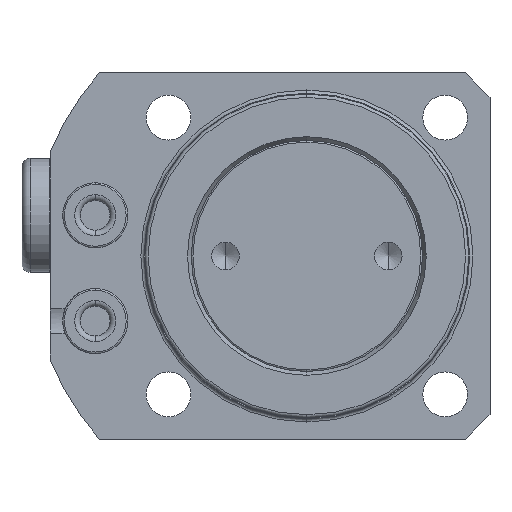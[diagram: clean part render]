
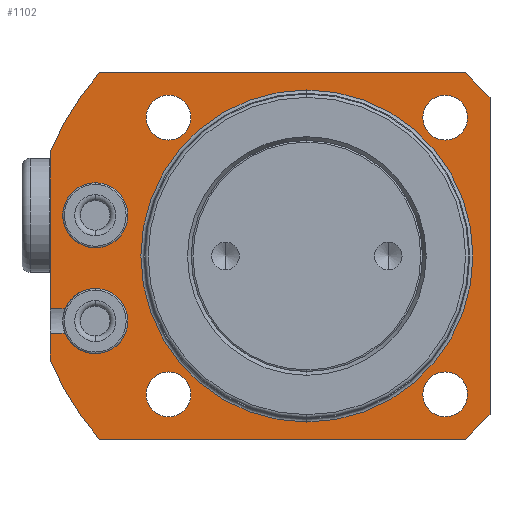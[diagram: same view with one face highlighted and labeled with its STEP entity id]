
A CAD part, front view. The second image highlights one B-rep face of the part: STEP entity #1102.
In plain terms, the highlighted planar face has unit normal (0, -1, 0).
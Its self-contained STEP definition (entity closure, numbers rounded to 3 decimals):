
#432=PLANE('',#4488);
#498=FACE_BOUND('',#1655,.T.);
#499=FACE_BOUND('',#1656,.T.);
#500=FACE_BOUND('',#1657,.T.);
#501=FACE_BOUND('',#1658,.T.);
#502=FACE_BOUND('',#1659,.T.);
#503=FACE_BOUND('',#1660,.T.);
#504=FACE_BOUND('',#1661,.T.);
#729=LINE('',#6879,#923);
#730=LINE('',#6882,#924);
#731=LINE('',#6884,#925);
#732=LINE('',#6888,#926);
#733=LINE('',#6890,#927);
#734=LINE('',#6892,#928);
#735=LINE('',#6894,#929);
#736=LINE('',#6896,#930);
#737=LINE('',#6900,#931);
#923=VECTOR('',#5290,1.);
#924=VECTOR('',#5293,1.);
#925=VECTOR('',#5294,1.);
#926=VECTOR('',#5297,1.);
#927=VECTOR('',#5298,1.);
#928=VECTOR('',#5299,1.);
#929=VECTOR('',#5300,1.);
#930=VECTOR('',#5301,1.);
#931=VECTOR('',#5304,1.);
#1102=ADVANCED_FACE('',(#498,#499,#500,#501,#502,#503,#504),#432,.T.);
#1655=EDGE_LOOP('',(#2117,#2118,#2119,#2120,#2121,#2122,#2123,#2124,#2125,
#2126,#2127,#2128,#2129,#2130));
#1656=EDGE_LOOP('',(#2131,#2132));
#1657=EDGE_LOOP('',(#2133,#2134));
#1658=EDGE_LOOP('',(#2135,#2136));
#1659=EDGE_LOOP('',(#2137,#2138));
#1660=EDGE_LOOP('',(#2139,#2140));
#1661=EDGE_LOOP('',(#2141,#2142));
#2117=ORIENTED_EDGE('',*,*,#3596,.F.);
#2118=ORIENTED_EDGE('',*,*,#3471,.F.);
#2119=ORIENTED_EDGE('',*,*,#3597,.F.);
#2120=ORIENTED_EDGE('',*,*,#3473,.F.);
#2121=ORIENTED_EDGE('',*,*,#3598,.F.);
#2122=ORIENTED_EDGE('',*,*,#3599,.T.);
#2123=ORIENTED_EDGE('',*,*,#3600,.T.);
#2124=ORIENTED_EDGE('',*,*,#3601,.T.);
#2125=ORIENTED_EDGE('',*,*,#3602,.T.);
#2126=ORIENTED_EDGE('',*,*,#3603,.T.);
#2127=ORIENTED_EDGE('',*,*,#3604,.T.);
#2128=ORIENTED_EDGE('',*,*,#3605,.T.);
#2129=ORIENTED_EDGE('',*,*,#3606,.T.);
#2130=ORIENTED_EDGE('',*,*,#3607,.T.);
#2131=ORIENTED_EDGE('',*,*,#3608,.F.);
#2132=ORIENTED_EDGE('',*,*,#3467,.F.);
#2133=ORIENTED_EDGE('',*,*,#3495,.F.);
#2134=ORIENTED_EDGE('',*,*,#3609,.F.);
#2135=ORIENTED_EDGE('',*,*,#3503,.F.);
#2136=ORIENTED_EDGE('',*,*,#3610,.F.);
#2137=ORIENTED_EDGE('',*,*,#3511,.F.);
#2138=ORIENTED_EDGE('',*,*,#3611,.F.);
#2139=ORIENTED_EDGE('',*,*,#3519,.F.);
#2140=ORIENTED_EDGE('',*,*,#3612,.F.);
#2141=ORIENTED_EDGE('',*,*,#3613,.F.);
#2142=ORIENTED_EDGE('',*,*,#3573,.F.);
#3099=VERTEX_POINT('',#6443);
#3100=VERTEX_POINT('',#6445);
#3103=VERTEX_POINT('',#6452);
#3104=VERTEX_POINT('',#6454);
#3105=VERTEX_POINT('',#6459);
#3106=VERTEX_POINT('',#6461);
#3125=VERTEX_POINT('',#6578);
#3126=VERTEX_POINT('',#6579);
#3133=VERTEX_POINT('',#6605);
#3134=VERTEX_POINT('',#6606);
#3141=VERTEX_POINT('',#6632);
#3142=VERTEX_POINT('',#6633);
#3149=VERTEX_POINT('',#6659);
#3150=VERTEX_POINT('',#6660);
#3191=VERTEX_POINT('',#6798);
#3192=VERTEX_POINT('',#6800);
#3209=VERTEX_POINT('',#6880);
#3210=VERTEX_POINT('',#6883);
#3211=VERTEX_POINT('',#6885);
#3212=VERTEX_POINT('',#6887);
#3213=VERTEX_POINT('',#6889);
#3214=VERTEX_POINT('',#6891);
#3215=VERTEX_POINT('',#6893);
#3216=VERTEX_POINT('',#6895);
#3217=VERTEX_POINT('',#6897);
#3218=VERTEX_POINT('',#6899);
#3467=EDGE_CURVE('',#3099,#3100,#4036,.T.);
#3471=EDGE_CURVE('',#3103,#3104,#4038,.T.);
#3473=EDGE_CURVE('',#3105,#3106,#4039,.T.);
#3495=EDGE_CURVE('',#3125,#3126,#4045,.T.);
#3503=EDGE_CURVE('',#3133,#3134,#4048,.T.);
#3511=EDGE_CURVE('',#3141,#3142,#4051,.T.);
#3519=EDGE_CURVE('',#3149,#3150,#4054,.T.);
#3573=EDGE_CURVE('',#3191,#3192,#4087,.T.);
#3596=EDGE_CURVE('',#3104,#3209,#729,.T.);
#3597=EDGE_CURVE('',#3106,#3103,#4097,.T.);
#3598=EDGE_CURVE('',#3210,#3105,#730,.T.);
#3599=EDGE_CURVE('',#3210,#3211,#731,.T.);
#3600=EDGE_CURVE('',#3211,#3212,#4098,.T.);
#3601=EDGE_CURVE('',#3212,#3213,#732,.T.);
#3602=EDGE_CURVE('',#3213,#3214,#733,.T.);
#3603=EDGE_CURVE('',#3214,#3215,#734,.T.);
#3604=EDGE_CURVE('',#3215,#3216,#735,.T.);
#3605=EDGE_CURVE('',#3216,#3217,#736,.T.);
#3606=EDGE_CURVE('',#3217,#3218,#4099,.T.);
#3607=EDGE_CURVE('',#3218,#3209,#737,.T.);
#3608=EDGE_CURVE('',#3100,#3099,#4100,.T.);
#3609=EDGE_CURVE('',#3126,#3125,#4101,.T.);
#3610=EDGE_CURVE('',#3134,#3133,#4102,.T.);
#3611=EDGE_CURVE('',#3142,#3141,#4103,.T.);
#3612=EDGE_CURVE('',#3150,#3149,#4104,.T.);
#3613=EDGE_CURVE('',#3192,#3191,#4105,.T.);
#4036=CIRCLE('',#4385,4.);
#4038=CIRCLE('',#4388,4.);
#4039=CIRCLE('',#4389,4.);
#4045=CIRCLE('',#4402,2.75);
#4048=CIRCLE('',#4407,2.75);
#4051=CIRCLE('',#4412,2.75);
#4054=CIRCLE('',#4417,2.75);
#4087=CIRCLE('',#4464,20.4);
#4097=CIRCLE('',#4479,4.);
#4098=CIRCLE('',#4480,34.);
#4099=CIRCLE('',#4481,34.);
#4100=CIRCLE('',#4482,4.);
#4101=CIRCLE('',#4483,2.75);
#4102=CIRCLE('',#4484,2.75);
#4103=CIRCLE('',#4485,2.75);
#4104=CIRCLE('',#4486,2.75);
#4105=CIRCLE('',#4487,20.4);
#4385=AXIS2_PLACEMENT_3D('',#6444,#5049,#5050);
#4388=AXIS2_PLACEMENT_3D('',#6453,#5057,#5058);
#4389=AXIS2_PLACEMENT_3D('',#6460,#5059,#5060);
#4402=AXIS2_PLACEMENT_3D('',#6577,#5098,#5099);
#4407=AXIS2_PLACEMENT_3D('',#6604,#5112,#5113);
#4412=AXIS2_PLACEMENT_3D('',#6631,#5126,#5127);
#4417=AXIS2_PLACEMENT_3D('',#6658,#5140,#5141);
#4464=AXIS2_PLACEMENT_3D('',#6799,#5254,#5255);
#4479=AXIS2_PLACEMENT_3D('',#6881,#5291,#5292);
#4480=AXIS2_PLACEMENT_3D('',#6886,#5295,#5296);
#4481=AXIS2_PLACEMENT_3D('',#6898,#5302,#5303);
#4482=AXIS2_PLACEMENT_3D('',#6901,#5305,#5306);
#4483=AXIS2_PLACEMENT_3D('',#6902,#5307,#5308);
#4484=AXIS2_PLACEMENT_3D('',#6903,#5309,#5310);
#4485=AXIS2_PLACEMENT_3D('',#6904,#5311,#5312);
#4486=AXIS2_PLACEMENT_3D('',#6905,#5313,#5314);
#4487=AXIS2_PLACEMENT_3D('',#6906,#5315,#5316);
#4488=AXIS2_PLACEMENT_3D('',#6907,#5317,#5318);
#5049=DIRECTION('',(0.,-1.,0.));
#5050=DIRECTION('',(0.,0.,-1.));
#5057=DIRECTION('',(0.,-1.,0.));
#5058=DIRECTION('',(0.,0.,-1.));
#5059=DIRECTION('',(0.,-1.,0.));
#5060=DIRECTION('',(0.,0.,-1.));
#5098=DIRECTION('',(0.,-1.,0.));
#5099=DIRECTION('',(0.,0.,-1.));
#5112=DIRECTION('',(0.,-1.,0.));
#5113=DIRECTION('',(0.,0.,-1.));
#5126=DIRECTION('',(0.,-1.,0.));
#5127=DIRECTION('',(0.,0.,-1.));
#5140=DIRECTION('',(0.,-1.,0.));
#5141=DIRECTION('',(0.,0.,-1.));
#5254=DIRECTION('',(0.,-1.,0.));
#5255=DIRECTION('',(0.,0.,-1.));
#5290=DIRECTION('',(-1.,0.,0.));
#5291=DIRECTION('',(0.,-1.,0.));
#5292=DIRECTION('',(0.,0.,-1.));
#5293=DIRECTION('',(1.,0.,0.));
#5294=DIRECTION('',(0.,0.,-1.));
#5295=DIRECTION('',(0.,-1.,0.));
#5296=DIRECTION('',(0.,0.,-1.));
#5297=DIRECTION('',(1.,0.,0.));
#5298=DIRECTION('',(0.707,0.,0.707));
#5299=DIRECTION('',(0.,0.,1.));
#5300=DIRECTION('',(-0.707,0.,0.707));
#5301=DIRECTION('',(-1.,0.,0.));
#5302=DIRECTION('',(0.,-1.,0.));
#5303=DIRECTION('',(0.,0.,-1.));
#5304=DIRECTION('',(0.,0.,-1.));
#5305=DIRECTION('',(0.,-1.,0.));
#5306=DIRECTION('',(0.,0.,-1.));
#5307=DIRECTION('',(0.,-1.,0.));
#5308=DIRECTION('',(0.,0.,-1.));
#5309=DIRECTION('',(0.,-1.,0.));
#5310=DIRECTION('',(0.,0.,-1.));
#5311=DIRECTION('',(0.,-1.,0.));
#5312=DIRECTION('',(0.,0.,-1.));
#5313=DIRECTION('',(0.,-1.,0.));
#5314=DIRECTION('',(0.,0.,-1.));
#5315=DIRECTION('',(0.,-1.,0.));
#5316=DIRECTION('',(0.,0.,-1.));
#5317=DIRECTION('',(0.,-1.,0.));
#5318=DIRECTION('',(0.,0.,1.));
#6443=CARTESIAN_POINT('',(-26.,31.886,9.));
#6444=CARTESIAN_POINT('',(-26.,31.886,5.));
#6445=CARTESIAN_POINT('',(-26.,31.886,1.));
#6452=CARTESIAN_POINT('',(-26.,31.886,-4.));
#6453=CARTESIAN_POINT('',(-26.,31.886,-8.));
#6454=CARTESIAN_POINT('',(-29.7,31.886,-6.48));
#6459=CARTESIAN_POINT('',(-29.7,31.886,-9.52));
#6460=CARTESIAN_POINT('',(-26.,31.886,-8.));
#6461=CARTESIAN_POINT('',(-26.,31.886,-12.));
#6577=CARTESIAN_POINT('',(-17.,31.886,-17.));
#6578=CARTESIAN_POINT('',(-17.,31.886,-14.25));
#6579=CARTESIAN_POINT('',(-17.,31.886,-19.75));
#6604=CARTESIAN_POINT('',(17.,31.886,-17.));
#6605=CARTESIAN_POINT('',(17.,31.886,-14.25));
#6606=CARTESIAN_POINT('',(17.,31.886,-19.75));
#6631=CARTESIAN_POINT('',(17.,31.886,17.));
#6632=CARTESIAN_POINT('',(17.,31.886,19.75));
#6633=CARTESIAN_POINT('',(17.,31.886,14.25));
#6658=CARTESIAN_POINT('',(-17.,31.886,17.));
#6659=CARTESIAN_POINT('',(-17.,31.886,19.75));
#6660=CARTESIAN_POINT('',(-17.,31.886,14.25));
#6798=CARTESIAN_POINT('',(0.,31.886,20.4));
#6799=CARTESIAN_POINT('',(0.,31.886,0.));
#6800=CARTESIAN_POINT('',(0.,31.886,-20.4));
#6879=CARTESIAN_POINT('',(-26.5,31.886,-6.48));
#6880=CARTESIAN_POINT('',(-31.5,31.886,-6.48));
#6881=CARTESIAN_POINT('',(-26.,31.886,-8.));
#6882=CARTESIAN_POINT('',(-26.5,31.886,-9.52));
#6883=CARTESIAN_POINT('',(-31.5,31.886,-9.52));
#6884=CARTESIAN_POINT('',(-31.5,31.886,0.));
#6885=CARTESIAN_POINT('',(-31.5,31.886,-12.796));
#6886=CARTESIAN_POINT('',(0.,31.886,0.));
#6887=CARTESIAN_POINT('',(-25.49,31.886,-22.5));
#6888=CARTESIAN_POINT('',(20.4,31.886,-22.5));
#6889=CARTESIAN_POINT('',(19.5,31.886,-22.5));
#6890=CARTESIAN_POINT('',(31.2,31.886,-10.8));
#6891=CARTESIAN_POINT('',(22.5,31.886,-19.5));
#6892=CARTESIAN_POINT('',(22.5,31.886,0.));
#6893=CARTESIAN_POINT('',(22.5,31.886,19.5));
#6894=CARTESIAN_POINT('',(31.2,31.886,10.8));
#6895=CARTESIAN_POINT('',(19.5,31.886,22.5));
#6896=CARTESIAN_POINT('',(20.4,31.886,22.5));
#6897=CARTESIAN_POINT('',(-25.49,31.886,22.5));
#6898=CARTESIAN_POINT('',(0.,31.886,0.));
#6899=CARTESIAN_POINT('',(-31.5,31.886,12.796));
#6900=CARTESIAN_POINT('',(-31.5,31.886,0.));
#6901=CARTESIAN_POINT('',(-26.,31.886,5.));
#6902=CARTESIAN_POINT('',(-17.,31.886,-17.));
#6903=CARTESIAN_POINT('',(17.,31.886,-17.));
#6904=CARTESIAN_POINT('',(17.,31.886,17.));
#6905=CARTESIAN_POINT('',(-17.,31.886,17.));
#6906=CARTESIAN_POINT('',(0.,31.886,0.));
#6907=CARTESIAN_POINT('',(20.4,31.886,0.));
